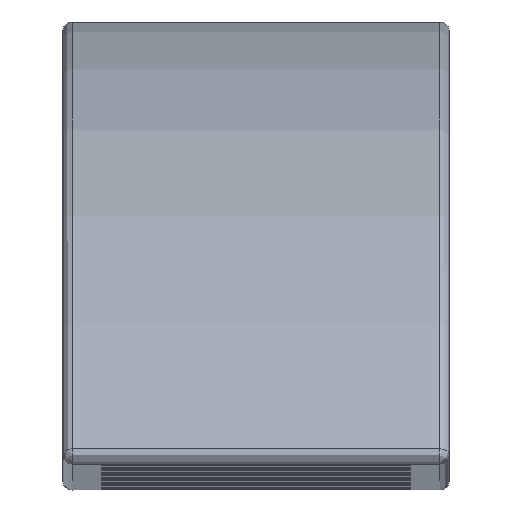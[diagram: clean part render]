
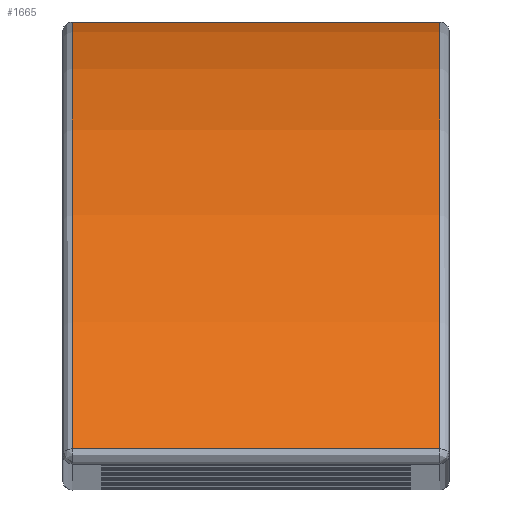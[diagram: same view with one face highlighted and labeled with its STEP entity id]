
A CAD part, top view. The second image highlights one B-rep face of the part: STEP entity #1665.
In plain terms, the highlighted cylindrical face has radius 28.449 mm (diameter 56.898 mm), a partial arc.
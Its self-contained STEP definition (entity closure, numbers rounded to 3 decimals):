
#139=FACE_OUTER_BOUND('',#241,.T.);
#241=EDGE_LOOP('',(#1211,#1212,#1213,#1214));
#354=LINE('',#2380,#557);
#359=LINE('',#2411,#562);
#557=VECTOR('',#1926,10.);
#562=VECTOR('',#1959,10.);
#768=CIRCLE('',#1784,28.449);
#770=CIRCLE('',#1787,28.449);
#789=VERTEX_POINT('',#2375);
#790=VERTEX_POINT('',#2378);
#797=VERTEX_POINT('',#2405);
#798=VERTEX_POINT('',#2409);
#948=EDGE_CURVE('',#790,#789,#354,.T.);
#959=EDGE_CURVE('',#789,#797,#768,.T.);
#961=EDGE_CURVE('',#798,#790,#770,.T.);
#962=EDGE_CURVE('',#797,#798,#359,.T.);
#1211=ORIENTED_EDGE('',*,*,#948,.F.);
#1212=ORIENTED_EDGE('',*,*,#961,.F.);
#1213=ORIENTED_EDGE('',*,*,#962,.F.);
#1214=ORIENTED_EDGE('',*,*,#959,.F.);
#1647=CYLINDRICAL_SURFACE('',#1786,28.449);
#1665=ADVANCED_FACE('',(#139),#1647,.T.);
#1784=AXIS2_PLACEMENT_3D('',#2406,#1951,#1952);
#1786=AXIS2_PLACEMENT_3D('',#2408,#1955,#1956);
#1787=AXIS2_PLACEMENT_3D('',#2410,#1957,#1958);
#1926=DIRECTION('',(-1.,0.,0.));
#1951=DIRECTION('center_axis',(-1.,0.,
0.));
#1952=DIRECTION('ref_axis',(0.,0.897,0.442));
#1955=DIRECTION('center_axis',(1.,0.,0.));
#1956=DIRECTION('ref_axis',(0.,1.,-0.016));
#1957=DIRECTION('center_axis',(1.,0.,0.));
#1958=DIRECTION('ref_axis',(0.,0.897,0.442));
#1959=DIRECTION('',(1.,0.,0.));
#2375=CARTESIAN_POINT('',(425.946,-85.173,-10.556));
#2378=CARTESIAN_POINT('',(435.446,-85.173,-10.556));
#2380=CARTESIAN_POINT('',(425.696,-85.173,-10.556));
#2405=CARTESIAN_POINT('',(425.946,-74.099,-33.532));
#2406=CARTESIAN_POINT('Origin',(425.946,-102.545,-33.086));
#2408=CARTESIAN_POINT('Origin',(425.696,-102.545,-33.086));
#2409=CARTESIAN_POINT('',(435.446,-74.099,-33.532));
#2410=CARTESIAN_POINT('Origin',(435.446,-102.545,-33.086));
#2411=CARTESIAN_POINT('',(425.696,-74.099,-33.532));
